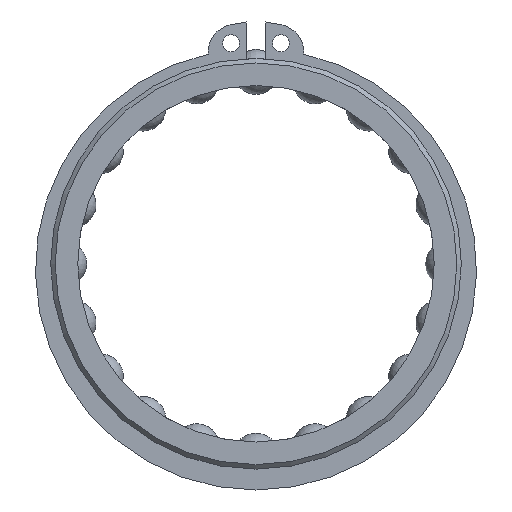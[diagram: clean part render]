
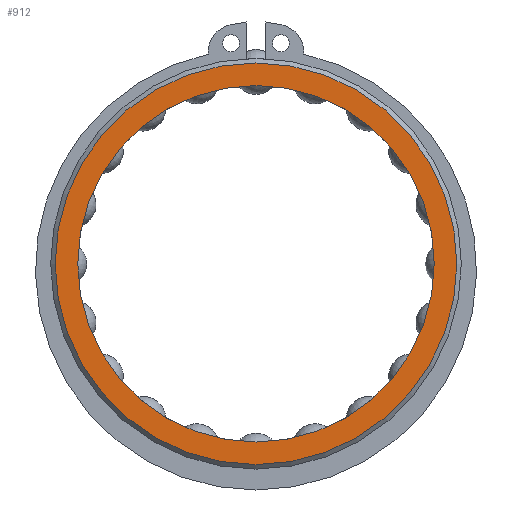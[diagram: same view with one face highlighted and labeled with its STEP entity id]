
A CAD part, left-side view. The second image highlights one B-rep face of the part: STEP entity #912.
In plain terms, the highlighted planar face has unit normal (-1, 0, 0).
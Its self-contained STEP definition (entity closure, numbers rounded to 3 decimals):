
#58=FACE_BOUND('',#325,.T.);
#66=PLANE('',#1006);
#147=CIRCLE('',#1005,15.8);
#148=CIRCLE('',#1007,17.8);
#219=FACE_OUTER_BOUND('',#324,.T.);
#324=EDGE_LOOP('',(#683));
#325=EDGE_LOOP('',(#684));
#441=VERTEX_POINT('',#2884);
#442=VERTEX_POINT('',#2888);
#526=EDGE_CURVE('',#441,#441,#147,.T.);
#527=EDGE_CURVE('',#442,#442,#148,.T.);
#683=ORIENTED_EDGE('',*,*,#527,.F.);
#684=ORIENTED_EDGE('',*,*,#526,.T.);
#912=ADVANCED_FACE('',(#219,#58),#66,.T.);
#1005=AXIS2_PLACEMENT_3D('',#2886,#1156,#1157);
#1006=AXIS2_PLACEMENT_3D('',#2887,#1158,#1159);
#1007=AXIS2_PLACEMENT_3D('',#2889,#1160,#1161);
#1156=DIRECTION('center_axis',(1.,0.,0.));
#1157=DIRECTION('ref_axis',(0.,0.,-1.));
#1158=DIRECTION('center_axis',(-1.,0.,0.));
#1159=DIRECTION('ref_axis',(0.,0.,1.));
#1160=DIRECTION('center_axis',(1.,0.,0.));
#1161=DIRECTION('ref_axis',(0.,0.,-1.));
#2884=CARTESIAN_POINT('',(0.,-15.8,0.));
#2886=CARTESIAN_POINT('Origin',(0.,0.,0.));
#2887=CARTESIAN_POINT('Origin',(0.,17.8,0.));
#2888=CARTESIAN_POINT('',(0.,-17.8,0.));
#2889=CARTESIAN_POINT('Origin',(0.,0.,0.));
